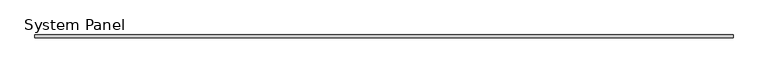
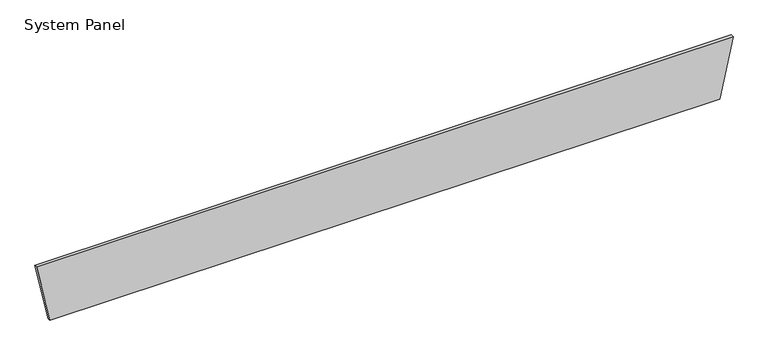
"""IFC4 building model written with IfcOpenShell, lengths in millimetres: plate geometry, System Panel : MetecnoPanel_50mm_Plain_Surfmist."""

from ifc_helpers import new_model, si_unit, frame, origin, place, context, project, spatial, polyline, outline, extrude, source, transform, mapped, element, save


def system_panel_117297ec(model_context):
    return source(origin(), model_context, "Body", "SweptSolid", [
        extrude(outline(polyline([(0.0, -6000.0), (0.0, 6000.0), (1100.0, 6239.1323567), (1100.0, -6239.1323567), (0.0, -6000.0)])), frame((0.0, -50.0, 0.0), z_axis=(0.0, 1.0, 0.0), x_axis=(0.0, 0.0, 1.0)), (0.0, 0.0, 1.0), 50.0),
    ])


if __name__ == "__main__":
    model = new_model("IFC4")
    model_context = context("Model", 3, world=origin())
    ifc_project = project(units=[si_unit("LENGTHUNIT", "METRE", prefix="MILLI")], contexts=[model_context])
    site = spatial("IfcSite", under=ifc_project)
    building = spatial("IfcBuilding", under=site)
    placement = place(None, origin())
    system_panel_shape = system_panel_117297ec(model_context)
    element("IfcPlate", 1, ObjectType="System Panel : MetecnoPanel_50mm_Plain_Surfmist", at=placement, inside=building, context=model_context, shape_type="MappedRepresentation", body=[
        mapped(system_panel_shape, transform((0.0, 0.0, 0.0), x_axis=(1.0, 0.0, 0.0), y_axis=(0.0, 1.0, 0.0), z_axis=(0.0, 0.0, 1.0))),
    ])
    save(model, "model.ifc")
